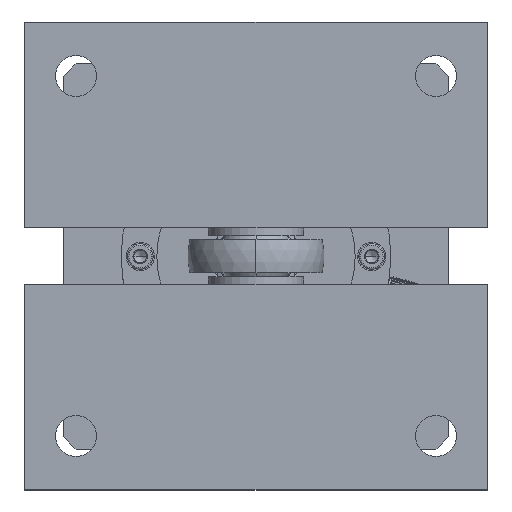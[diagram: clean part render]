
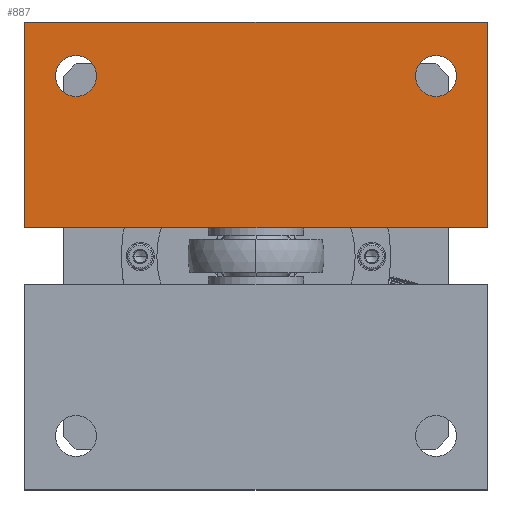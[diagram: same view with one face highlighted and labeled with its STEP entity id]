
A CAD part, top view. The second image highlights one B-rep face of the part: STEP entity #887.
In plain terms, the highlighted planar face has unit normal (0, 0, 1).
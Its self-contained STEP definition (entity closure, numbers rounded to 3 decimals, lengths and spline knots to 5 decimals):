
#887=ADVANCED_FACE('155:19',(#1511,#1512,#1513),#1514,.T.);
#1511=FACE_BOUND('',#2632,.T.);
#1512=FACE_BOUND('',#2633,.T.);
#1513=FACE_OUTER_BOUND('',#2634,.T.);
#1514=PLANE('',#2635);
#2632=EDGE_LOOP('',(#4240,#4241));
#2633=EDGE_LOOP('',(#4242,#4243));
#2634=EDGE_LOOP('',(#4244,#4245,#4246,#4247));
#2635=AXIS2_PLACEMENT_3D('',#4248,#4249,#4250);
#4240=ORIENTED_EDGE('',*,*,#7154,.F.);
#4241=ORIENTED_EDGE('',*,*,#7144,.F.);
#4242=ORIENTED_EDGE('',*,*,#7152,.F.);
#4243=ORIENTED_EDGE('',*,*,#7148,.F.);
#4244=ORIENTED_EDGE('',*,*,#7155,.F.);
#4245=ORIENTED_EDGE('',*,*,#7156,.F.);
#4246=ORIENTED_EDGE('',*,*,#7157,.F.);
#4247=ORIENTED_EDGE('',*,*,#7158,.F.);
#4248=CARTESIAN_POINT('',(0.0,0.0,0.06));
#4249=DIRECTION('',(0.0,0.0,1.0));
#4250=DIRECTION('',(1.0,0.0,0.0));
#7144=EDGE_CURVE('155:34',#8436,#8439,#8440,.T.);
#7148=EDGE_CURVE('155:31',#8444,#8447,#8448,.T.);
#7152=EDGE_CURVE('155:31',#8447,#8444,#8453,.T.);
#7154=EDGE_CURVE('155:34',#8439,#8436,#8455,.T.);
#7155=EDGE_CURVE('149:923',#8456,#8457,#8458,.T.);
#7156=EDGE_CURVE('149:953',#8459,#8456,#8460,.T.);
#7157=EDGE_CURVE('149:944',#8461,#8459,#8462,.T.);
#7158=EDGE_CURVE('149:935',#8457,#8461,#8463,.T.);
#8436=VERTEX_POINT('',#10338);
#8439=VERTEX_POINT('',#10342);
#8440=CIRCLE('',#10343,0.008);
#8444=VERTEX_POINT('',#10348);
#8447=VERTEX_POINT('',#10352);
#8448=CIRCLE('',#10353,0.008);
#8453=CIRCLE('',#10359,0.008);
#8455=CIRCLE('',#10361,0.008);
#8456=VERTEX_POINT('',#10362);
#8457=VERTEX_POINT('',#10363);
#8458=LINE('',#10364,#10365);
#8459=VERTEX_POINT('',#10366);
#8460=LINE('',#10367,#10368);
#8461=VERTEX_POINT('',#10369);
#8462=LINE('',#10370,#10371);
#8463=LINE('',#10372,#10373);
#10338=CARTESIAN_POINT('',(-0.078,-0.055,0.06));
#10342=CARTESIAN_POINT('',(-0.062,-0.055,0.06));
#10343=AXIS2_PLACEMENT_3D('',#13366,#13367,#13368);
#10348=CARTESIAN_POINT('',(0.062,-0.055,0.06));
#10352=CARTESIAN_POINT('',(0.078,-0.055,0.06));
#10353=AXIS2_PLACEMENT_3D('',#13374,#13375,#13376);
#10359=AXIS2_PLACEMENT_3D('',#13384,#13385,#13386);
#10361=AXIS2_PLACEMENT_3D('',#13390,#13391,#13392);
#10362=CARTESIAN_POINT('',(0.09,-0.076,0.06));
#10363=CARTESIAN_POINT('',(-0.09,-0.076,0.06));
#10364=CARTESIAN_POINT('',(0.0,-0.076,0.06));
#10365=VECTOR('',#13393,1.0);
#10366=CARTESIAN_POINT('',(0.09,0.004,0.06));
#10367=CARTESIAN_POINT('',(0.09,0.004,0.06));
#10368=VECTOR('',#13394,1.0);
#10369=CARTESIAN_POINT('',(-0.09,0.004,0.06));
#10370=CARTESIAN_POINT('',(-0.09,0.004,0.06));
#10371=VECTOR('',#13395,1.0);
#10372=CARTESIAN_POINT('',(-0.09,-0.004,0.06));
#10373=VECTOR('',#13396,1.0);
#13366=CARTESIAN_POINT('',(-0.07,-0.055,0.06));
#13367=DIRECTION('',(0.0,0.0,1.0));
#13368=DIRECTION('',(1.0,0.0,0.0));
#13374=CARTESIAN_POINT('',(0.07,-0.055,0.06));
#13375=DIRECTION('',(0.0,0.0,1.0));
#13376=DIRECTION('',(1.0,0.0,-0.0));
#13384=CARTESIAN_POINT('',(0.07,-0.055,0.06));
#13385=DIRECTION('',(0.0,0.0,1.0));
#13386=DIRECTION('',(1.0,0.0,-0.0));
#13390=CARTESIAN_POINT('',(-0.07,-0.055,0.06));
#13391=DIRECTION('',(0.0,0.0,1.0));
#13392=DIRECTION('',(1.0,0.0,0.0));
#13393=DIRECTION('',(-1.0,0.0,0.0));
#13394=DIRECTION('',(0.0,-1.0,0.0));
#13395=DIRECTION('',(1.0,0.0,0.0));
#13396=DIRECTION('',(0.0,1.0,0.0));
